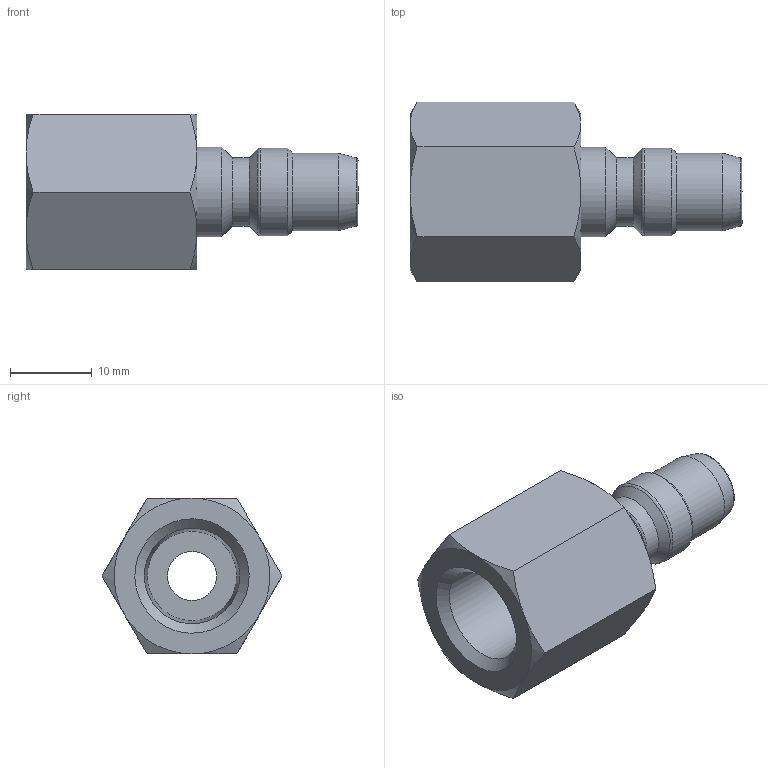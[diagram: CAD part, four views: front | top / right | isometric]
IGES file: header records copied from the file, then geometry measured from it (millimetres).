
Global section: file name: SFQC2P-F4N; native system: Autodesk Inventor 2016; preprocessor: unknown; author: 이승민,,11,0; organization: 20170208.112006; date: 20170208.203123; units: millimetre
Bounding box: 40.6 x 22 x 19.05 mm (x, y, z)
Volume: 5666.3 mm3; surface area: 3528.2 mm2
Topology: 1 solids, 1 shells, 37 faces, 96 edges, 63 vertices
Faces by surface type: bspline 37
